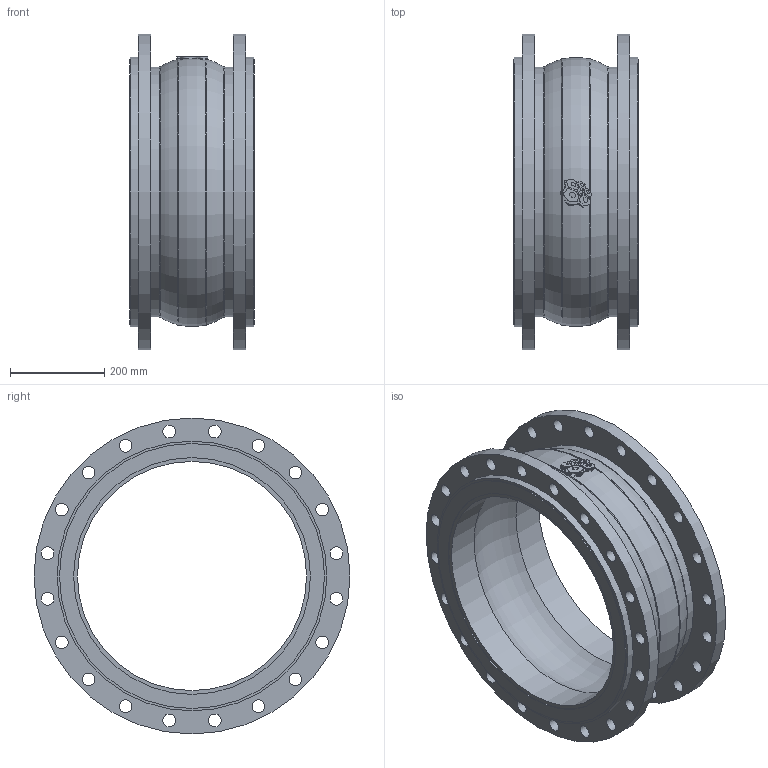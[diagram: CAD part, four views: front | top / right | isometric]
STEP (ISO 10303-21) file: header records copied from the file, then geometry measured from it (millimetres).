
FILE_DESCRIPTION(('STEP AP203'), '1');
FILE_NAME('3D_500-500-EPDM-FF', '', ('UNSPECIFIED'), ('UNSPECIFIED'), 'C3D Converter', 'C3D Toolkit', '');
FILE_SCHEMA(('CONFIG_CONTROL_DESIGN'));
Length unit declared in the file: millimetre
Bounding box: 265 x 670 x 670 mm (x, y, z)
Volume: 17592706.9 mm3; surface area: 1587189.3 mm2
Topology: 9 solids, 9 shells, 901 faces, 2639 edges, 1764 vertices
Faces by surface type: plane 839, cylinder 52, torus 10
Full cylindrical faces by diameter (mm): 27 x40, 486 x2, 502 x2, 530 x2, 562 x2, 572 x2, 670 x2
Entity records: 36572 total; most frequent: CARTESIAN_POINT 5243, ORIENTED_EDGE 5154, DIRECTION 4519, EDGE_CURVE 2577, LINE 2439, VECTOR 2439, VERTEX_POINT 1764, EDGE_LOOP 1065
